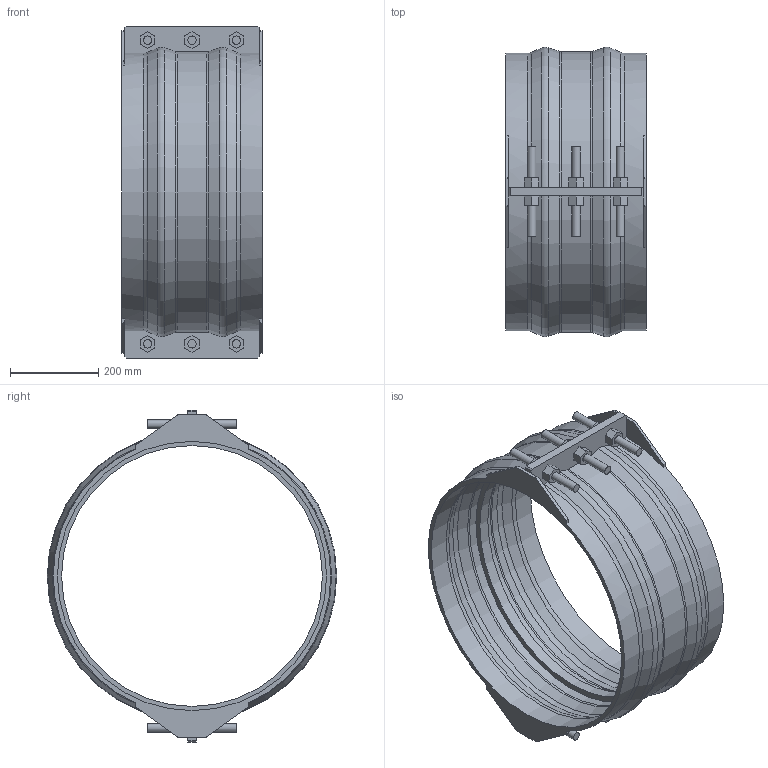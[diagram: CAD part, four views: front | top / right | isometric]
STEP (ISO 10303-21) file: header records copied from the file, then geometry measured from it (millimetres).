
FILE_DESCRIPTION(/* description */ ('VIC RESTRAINED COUPLING STYLE 233 (FLEX) (BRD)','CAx-IF Rec.Pracs.---Representation and Presentation of Product Manufacturing Information (PMI)---4.0---2014-10-13'),/* implementation_level */ '2;1');
FILE_NAME(/* name */ 'C:\Users\Vjadhav\Desktop\CAD for Inventor\Test for STEP\Vivek\Adsk_Inventor_Bolted Sleeve_iParts\STEP\Victaulic_VBSP_Coupling Flexible Restrained_Style 233 (BRD)\Victaulic_VBSP_Coupling Flexible Restrained_Style 233 (BRD)_300psi_24 (600).stp',/* time_stamp */ '2020-09-24T12:29:25+06:00',/* author */ ('Vjadhav'),/* organization */ ('Victaulic'),/* preprocessor_version */ 'ST-DEVELOPER v17.2',/* originating_system */ 'Autodesk Inventor 2019',/* authorisation */ '');
FILE_SCHEMA (('AP242_MANAGED_MODEL_BASED_3D_ENGINEERING_MIM_LF { 1 0 10303 442 1 1 4 }'));
Length unit declared in the file: inch
Products named in the file (1): Style_233_Type_2_300psi-24.0
Bounding box: 317.5 x 655.34 x 751.84 mm (x, y, z)
Volume: 8033462.1 mm3; surface area: 1584061 mm2
Topology: 1 solids, 1 shells, 211 faces, 557 edges, 374 vertices
Faces by surface type: plane 142, cylinder 39, torus 18, cone 12
Full cylindrical faces by diameter (mm): 19.05 x12, 590.55 x1, 609.6 x2, 615.95 x2
Entity records: 7032 total; most frequent: CARTESIAN_POINT 1384, ORIENTED_EDGE 1114, DIRECTION 1111, EDGE_CURVE 557, VERTEX_POINT 374, LINE 373, VECTOR 373, AXIS2_PLACEMENT_3D 369
